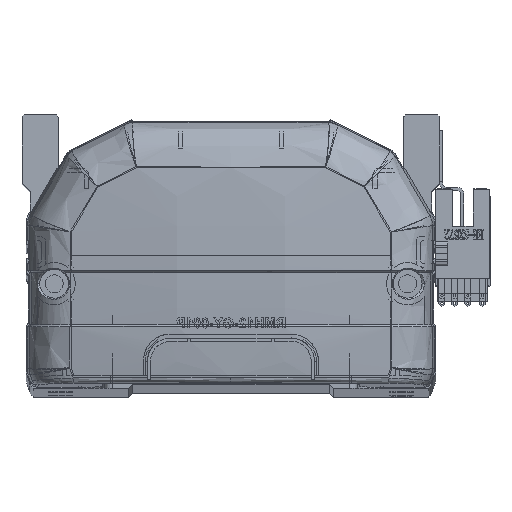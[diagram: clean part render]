
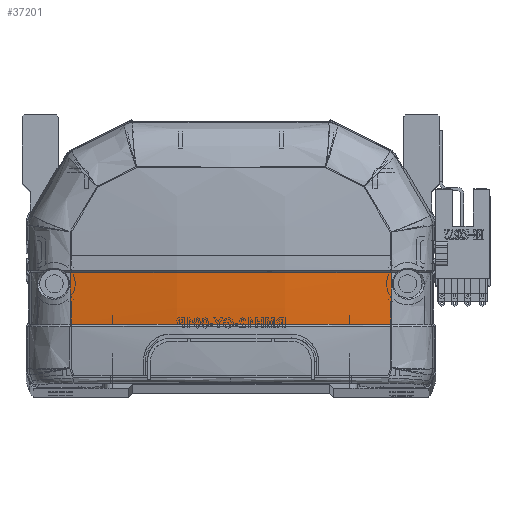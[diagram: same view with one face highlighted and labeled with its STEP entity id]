
A CAD part, top view. The second image highlights one B-rep face of the part: STEP entity #37201.
In plain terms, the highlighted free-form (B-spline) face has degree [3, 3] with [4, 4] control points.
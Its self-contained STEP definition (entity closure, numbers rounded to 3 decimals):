
#1175 = CARTESIAN_POINT ( 'NONE',  ( 39.985, 15.83, -5.879 ) ) ;
#1667 = VERTEX_POINT ( 'NONE', #11380 ) ;
#1760 = CARTESIAN_POINT ( 'NONE',  ( 39.966, 24.413, -6.306 ) ) ;
#2854 = FACE_OUTER_BOUND ( 'NONE', #18353, .T. ) ;
#5699 = EDGE_CURVE ( 'NONE', #44613, #1667, #27145, .T. ) ;
#8049 = CARTESIAN_POINT ( 'NONE',  ( -13.598, 19.918, -10.302 ) ) ;
#8208 = CARTESIAN_POINT ( 'NONE',  ( -13.373, 28.707, -9.468 ) ) ;
#8955 = EDGE_CURVE ( 'NONE', #27714, #1667, #23157, .T. ) ;
#10441 = CARTESIAN_POINT ( 'NONE',  ( -23.389, 15.83, -7.947 ) ) ;
#10846 = CARTESIAN_POINT ( 'NONE',  ( 40.461, 20.111, -6.066 ) ) ;
#11201 = CARTESIAN_POINT ( 'NONE',  ( 39.973, 20.12, -6.142 ) ) ;
#11380 = CARTESIAN_POINT ( 'NONE',  ( 39.963, 28.706, -6.372 ) ) ;
#11614 = CARTESIAN_POINT ( 'NONE',  ( 39.985, 15.83, -5.879 ) ) ;
#12630 = CARTESIAN_POINT ( 'NONE',  ( -13.598, 28.769, -10.535 ) ) ;
#12652 = ORIENTED_EDGE ( 'NONE', *, *, #8955, .F. ) ;
#13215 = CARTESIAN_POINT ( 'NONE',  ( 39.963, 28.706, -6.372 ) ) ;
#15057 = CARTESIAN_POINT ( 'NONE',  ( -39.966, 24.412, -6.306 ) ) ;
#15732 = CARTESIAN_POINT ( 'NONE',  ( 40.461, 24.47, -6.231 ) ) ;
#18353 = EDGE_LOOP ( 'NONE', ( #49923, #12652, #21362, #53515 ) ) ;
#19513 = CARTESIAN_POINT ( 'NONE',  ( -39.985, 15.83, -5.879 ) ) ;
#19955 = CARTESIAN_POINT ( 'NONE',  ( 40.461, 15.757, -5.8 ) ) ;
#20555 = CARTESIAN_POINT ( 'NONE',  ( 13.598, 15.499, -10.032 ) ) ;
#21253 = EDGE_CURVE ( 'NONE', #44613, #42478, #50349, .T. ) ;
#21362 = ORIENTED_EDGE ( 'NONE', *, *, #46495, .T. ) ;
#23157 = B_SPLINE_CURVE_WITH_KNOTS ( 'NONE', 3,
 ( #56291, #27162, #8208, #37306, #41256, #13215 ),
 .UNSPECIFIED., .F., .F.,
 ( 4, 2, 4 ),
 ( 0., 0.5, 1. ),
 .UNSPECIFIED. ) ;
#23874 = CARTESIAN_POINT ( 'NONE',  ( -39.973, 20.118, -6.142 ) ) ;
#24407 =( BOUNDED_SURFACE ( )  B_SPLINE_SURFACE ( 3, 3, ( 
 ( #19955, #10846, #15732, #39306 ),
 ( #20555, #53912, #51065, #51282 ),
 ( #41712, #8049, #41298, #12630 ),
 ( #50637, #46619, #61191, #27415 ) ),
 .UNSPECIFIED., .F., .F., .T. ) 
 B_SPLINE_SURFACE_WITH_KNOTS ( ( 4, 4 ),
 ( 4, 4 ),
 ( 0., 1. ),
 ( 0., 1. ),
 .UNSPECIFIED. ) 
 GEOMETRIC_REPRESENTATION_ITEM ( )  RATIONAL_B_SPLINE_SURFACE ( (
 ( 1., 1., 1., 1.),
 ( 0.992, 0.992, 0.992, 0.992),
 ( 0.992, 0.992, 0.992, 0.992),
 ( 1., 1., 1., 1.) ) ) 
 REPRESENTATION_ITEM ( '' )  SURFACE ( )  );
#24737 = CARTESIAN_POINT ( 'NONE',  ( -36.679, 15.83, -6.395 ) ) ;
#27145 = B_SPLINE_CURVE_WITH_KNOTS ( 'NONE', 3,
 ( #11614, #11201, #1760, #35498 ),
 .UNSPECIFIED., .F., .F.,
 ( 4, 4 ),
 ( 0., 1. ),
 .UNSPECIFIED. ) ;
#27162 = CARTESIAN_POINT ( 'NONE',  ( -26.748, 28.706, -8.432 ) ) ;
#27415 = CARTESIAN_POINT ( 'NONE',  ( -40.461, 28.832, -6.296 ) ) ;
#27714 = VERTEX_POINT ( 'NONE', #51659 ) ;
#31137 = CARTESIAN_POINT ( 'NONE',  ( -39.985, 15.83, -5.879 ) ) ;
#32126 = B_SPLINE_CURVE_WITH_KNOTS ( 'NONE', 3,
 ( #58112, #15057, #23874, #58326 ),
 .UNSPECIFIED., .F., .F.,
 ( 4, 4 ),
 ( 0., 1. ),
 .UNSPECIFIED. ) ;
#34711 = CARTESIAN_POINT ( 'NONE',  ( -33.365, 15.83, -6.848 ) ) ;
#35498 = CARTESIAN_POINT ( 'NONE',  ( 39.963, 28.706, -6.372 ) ) ;
#37201 = ADVANCED_FACE ( 'NONE', ( #2854 ), #24407, .F. ) ;
#37306 = CARTESIAN_POINT ( 'NONE',  ( 13.375, 28.707, -9.468 ) ) ;
#39306 = CARTESIAN_POINT ( 'NONE',  ( 40.461, 28.832, -6.296 ) ) ;
#41256 = CARTESIAN_POINT ( 'NONE',  ( 26.749, 28.706, -8.432 ) ) ;
#41298 = CARTESIAN_POINT ( 'NONE',  ( -13.598, 24.342, -10.47 ) ) ;
#41712 = CARTESIAN_POINT ( 'NONE',  ( -13.598, 15.499, -10.032 ) ) ;
#42478 = VERTEX_POINT ( 'NONE', #31137 ) ;
#44613 = VERTEX_POINT ( 'NONE', #50977 ) ;
#46495 = EDGE_CURVE ( 'NONE', #27714, #42478, #32126, .T. ) ;
#46619 = CARTESIAN_POINT ( 'NONE',  ( -40.461, 20.111, -6.066 ) ) ;
#48400 = CARTESIAN_POINT ( 'NONE',  ( -26.721, 15.83, -7.624 ) ) ;
#49923 = ORIENTED_EDGE ( 'NONE', *, *, #5699, .T. ) ;
#50349 = B_SPLINE_CURVE_WITH_KNOTS ( 'NONE', 3,
 ( #1175, #53700, #58573, #53905, #53502, #10441, #48400, #34711, #24737, #19513 ),
 .UNSPECIFIED., .F., .F.,
 ( 4, 2, 2, 2, 4 ),
 ( 0., 0.04, 0.06, 0.07, 0.08 ),
 .UNSPECIFIED. ) ;
#50637 = CARTESIAN_POINT ( 'NONE',  ( -40.461, 15.757, -5.8 ) ) ;
#50977 = CARTESIAN_POINT ( 'NONE',  ( 39.985, 15.83, -5.879 ) ) ;
#51065 = CARTESIAN_POINT ( 'NONE',  ( 13.598, 24.342, -10.47 ) ) ;
#51282 = CARTESIAN_POINT ( 'NONE',  ( 13.598, 28.769, -10.535 ) ) ;
#51659 = CARTESIAN_POINT ( 'NONE',  ( -39.963, 28.706, -6.372 ) ) ;
#53502 = CARTESIAN_POINT ( 'NONE',  ( -13.384, 15.83, -8.724 ) ) ;
#53515 = ORIENTED_EDGE ( 'NONE', *, *, #21253, .F. ) ;
#53700 = CARTESIAN_POINT ( 'NONE',  ( 26.761, 15.83, -7.945 ) ) ;
#53905 = CARTESIAN_POINT ( 'NONE',  ( -6.692, 15.83, -8.984 ) ) ;
#53912 = CARTESIAN_POINT ( 'NONE',  ( 13.598, 19.918, -10.302 ) ) ;
#56291 = CARTESIAN_POINT ( 'NONE',  ( -39.963, 28.706, -6.372 ) ) ;
#58112 = CARTESIAN_POINT ( 'NONE',  ( -39.963, 28.706, -6.372 ) ) ;
#58326 = CARTESIAN_POINT ( 'NONE',  ( -39.985, 15.83, -5.879 ) ) ;
#58573 = CARTESIAN_POINT ( 'NONE',  ( 13.38, 15.83, -8.984 ) ) ;
#61191 = CARTESIAN_POINT ( 'NONE',  ( -40.461, 24.47, -6.231 ) ) ;
